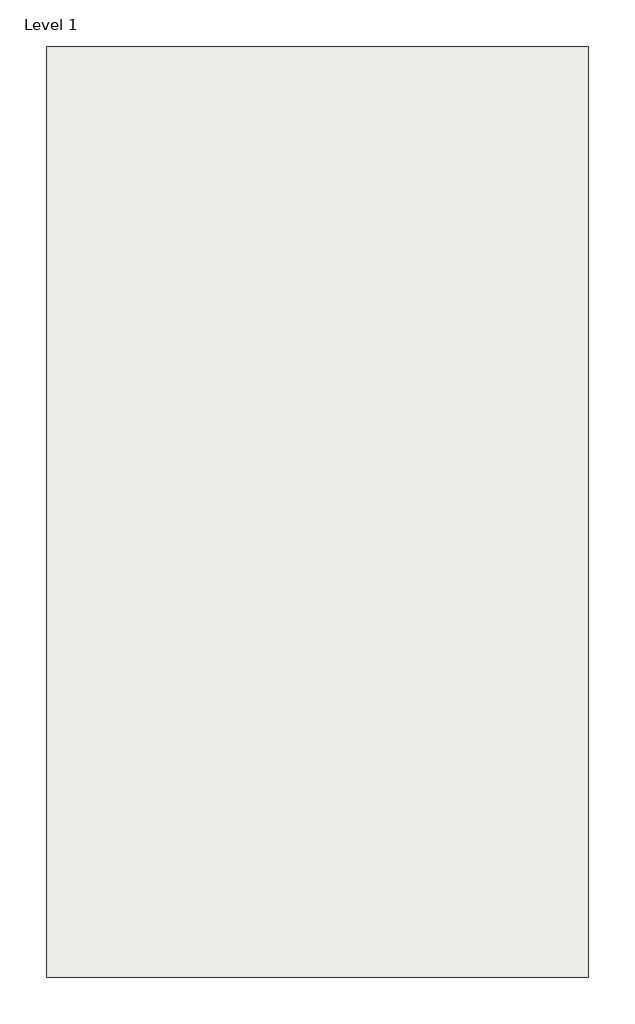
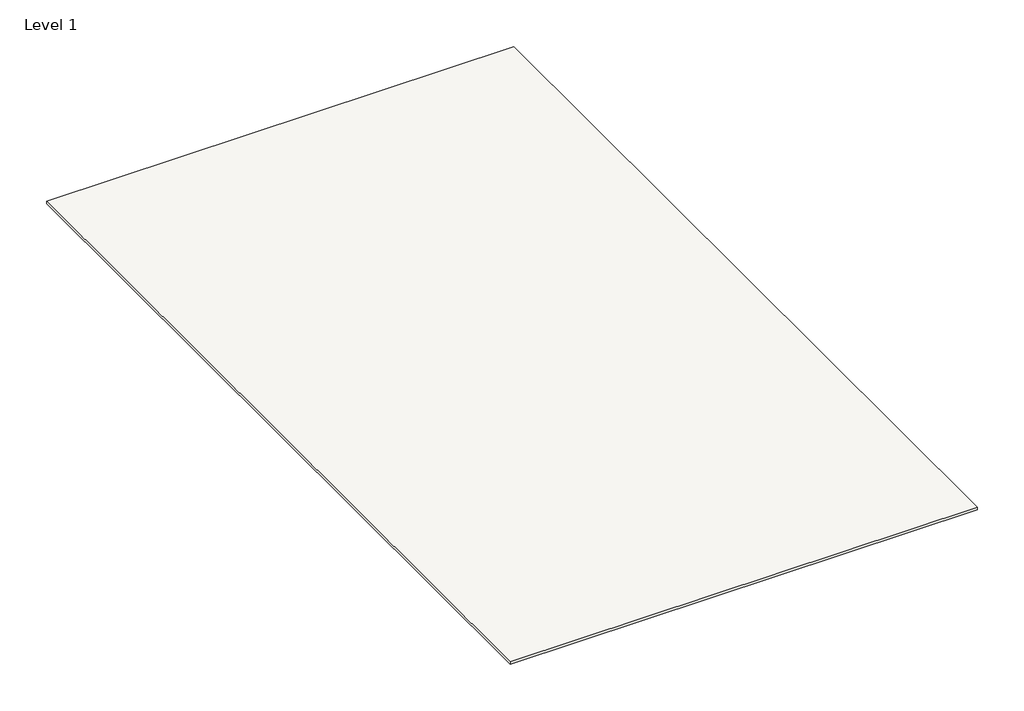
# One storey: 1 covering.
"""IFC4 building model written with IfcOpenShell, lengths in millimetres."""

from ifc_helpers import new_model, si_unit, frame, origin, place, context, project, spatial, polyline, outline, extrude, element, save

model = new_model("IFC4")

# Units and contexts
model_context = context("Model", 3, world=origin())
ifc_project = project(units=[si_unit("LENGTHUNIT", "METRE", prefix="MILLI")], contexts=[model_context])

# Site, building, storey
site = spatial("IfcSite", under=ifc_project)
building = spatial("IfcBuilding", under=site)
storey = spatial("IfcBuildingStorey", under=building, Name="Level 1", Elevation=3615.0)

# Covering
placement = place(None, origin())
element("IfcCovering", 1, ObjectType="Plain", at=placement, inside=storey, context=model_context, shape_type="SweptSolid", body=[
    extrude(outline(polyline([(2661.0715914, 15968.6412551), (2661.0715914, -1731.3587449), (-7638.9284086, -1731.3587449), (-7638.9284086, 15968.6412551), (2661.0715914, 15968.6412551)])), frame((0.0, 0.0, 3615.0), z_axis=(0.0, 0.0, 1.0), x_axis=(1.0, 0.0, 0.0)), (0.0, 0.0, 1.0), 57.0),
])

save(model, "model.ifc")
